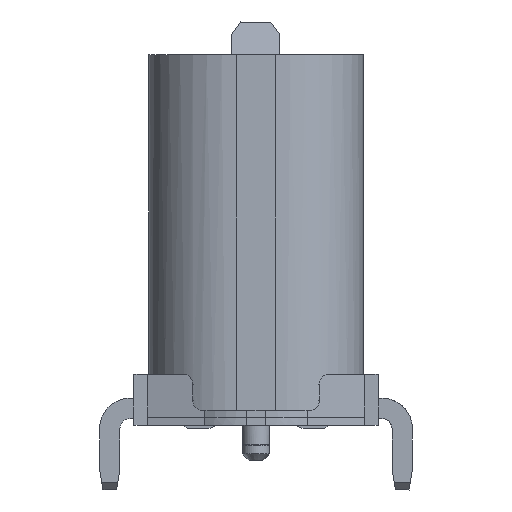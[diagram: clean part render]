
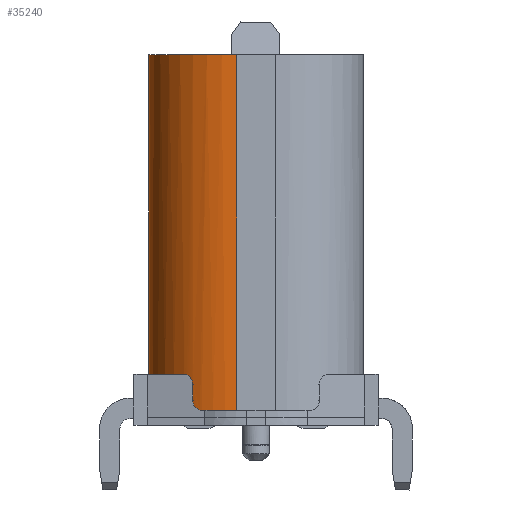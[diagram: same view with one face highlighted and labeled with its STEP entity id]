
A CAD part, left-side view. The second image highlights one B-rep face of the part: STEP entity #35240.
In plain terms, the highlighted cylindrical face has radius 1.3 mm (diameter 2.6 mm), a partial arc.
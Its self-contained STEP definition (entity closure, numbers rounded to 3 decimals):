
#1643 = B_SPLINE_CURVE_WITH_KNOTS ( 'NONE', 3,
 ( #41943, #15188, #38168, #41668, #24095, #15461 ),
 .UNSPECIFIED., .F., .F.,
 ( 4, 2, 4 ),
 ( 0., 0.5, 1. ),
 .UNSPECIFIED. ) ;
#1701 = VERTEX_POINT ( 'NONE', #9080 ) ;
#1882 = CARTESIAN_POINT ( 'NONE',  ( -64.57, -1.771, -42.243 ) ) ;
#2016 = CARTESIAN_POINT ( 'NONE',  ( -65.763, -1.256, -47.473 ) ) ;
#3284 = CARTESIAN_POINT ( 'NONE',  ( -65.696, -1.121, -47.051 ) ) ;
#4338 = EDGE_CURVE ( 'NONE', #37226, #1701, #11267, .T. ) ;
#4590 = CIRCLE ( 'NONE', #7336, 1.3 ) ;
#5899 = VERTEX_POINT ( 'NONE', #2016 ) ;
#6237 = FACE_OUTER_BOUND ( 'NONE', #15548, .T. ) ;
#6967 = VERTEX_POINT ( 'NONE', #21677 ) ;
#7336 = AXIS2_PLACEMENT_3D ( 'NONE', #47164, #25847, #39085 ) ;
#7594 = CARTESIAN_POINT ( 'NONE',  ( -65.658, -1.059, -46.958 ) ) ;
#9080 = CARTESIAN_POINT ( 'NONE',  ( -64.57, -0.471, -42.243 ) ) ;
#10608 = ORIENTED_EDGE ( 'NONE', *, *, #23556, .T. ) ;
#11267 = LINE ( 'NONE', #33147, #24726 ) ;
#11627 = CARTESIAN_POINT ( 'NONE',  ( -65.696, -1.121, -47.093 ) ) ;
#12638 = EDGE_CURVE ( 'NONE', #37226, #41283, #4590, .T. ) ;
#13618 = ORIENTED_EDGE ( 'NONE', *, *, #4338, .F. ) ;
#14459 = CARTESIAN_POINT ( 'NONE',  ( -64.57, -0.471, -46.943 ) ) ;
#14625 = EDGE_CURVE ( 'NONE', #41283, #28390, #28459, .T. ) ;
#15188 = CARTESIAN_POINT ( 'NONE',  ( -65.696, -1.122, -47.363 ) ) ;
#15461 = CARTESIAN_POINT ( 'NONE',  ( -65.763, -1.256, -47.473 ) ) ;
#15548 = EDGE_LOOP ( 'NONE', ( #16796, #33760, #13618, #35273, #25571, #10608, #17710, #17244 ) ) ;
#15866 = DIRECTION ( 'NONE',  ( 0., 0., 1. ) ) ;
#16396 = EDGE_CURVE ( 'NONE', #5899, #42711, #20438, .T. ) ;
#16506 = CARTESIAN_POINT ( 'NONE',  ( -65.689, -1.108, -47.016 ) ) ;
#16796 = ORIENTED_EDGE ( 'NONE', *, *, #39439, .T. ) ;
#17244 = ORIENTED_EDGE ( 'NONE', *, *, #16396, .T. ) ;
#17710 = ORIENTED_EDGE ( 'NONE', *, *, #42921, .T. ) ;
#18111 = CARTESIAN_POINT ( 'NONE',  ( -65.87, -1.771, -58.224 ) ) ;
#18684 = LINE ( 'NONE', #18111, #41855 ) ;
#19476 = CYLINDRICAL_SURFACE ( 'NONE', #29761, 1.3 ) ;
#20438 = CIRCLE ( 'NONE', #52618, 1.3 ) ;
#20586 = DIRECTION ( 'NONE',  ( 1., 0., 0. ) ) ;
#21677 = CARTESIAN_POINT ( 'NONE',  ( -65.87, -1.771, -42.243 ) ) ;
#22375 = CARTESIAN_POINT ( 'NONE',  ( -65.87, -1.771, -47.473 ) ) ;
#23556 = EDGE_CURVE ( 'NONE', #28390, #33841, #56533, .T. ) ;
#24095 = CARTESIAN_POINT ( 'NONE',  ( -65.747, -1.219, -47.473 ) ) ;
#24726 = VECTOR ( 'NONE', #15866, 1000. ) ;
#24861 = DIRECTION ( 'NONE',  ( 0., -1., 0. ) ) ;
#25571 = ORIENTED_EDGE ( 'NONE', *, *, #14625, .T. ) ;
#25847 = DIRECTION ( 'NONE',  ( 0., 0., 1. ) ) ;
#25972 = CARTESIAN_POINT ( 'NONE',  ( -64.57, -1.771, -47.473 ) ) ;
#27094 = CARTESIAN_POINT ( 'NONE',  ( -65.696, -1.121, -58.224 ) ) ;
#28390 = VERTEX_POINT ( 'NONE', #39178 ) ;
#28459 = B_SPLINE_CURVE_WITH_KNOTS ( 'NONE', 3,
 ( #34643, #47022, #7594, #16506, #3284, #11627 ),
 .UNSPECIFIED., .F., .F.,
 ( 4, 2, 4 ),
 ( 0., 0.5, 1. ),
 .UNSPECIFIED. ) ;
#29205 = DIRECTION ( 'NONE',  ( 0., 0., -1. ) ) ;
#29761 = AXIS2_PLACEMENT_3D ( 'NONE', #37024, #29826, #20586 ) ;
#29826 = DIRECTION ( 'NONE',  ( 0., 0., 1. ) ) ;
#32942 = AXIS2_PLACEMENT_3D ( 'NONE', #1882, #29205, #24861 ) ;
#33147 = CARTESIAN_POINT ( 'NONE',  ( -64.57, -0.471, -44.618 ) ) ;
#33760 = ORIENTED_EDGE ( 'NONE', *, *, #43395, .T. ) ;
#33838 = CIRCLE ( 'NONE', #32942, 1.3 ) ;
#33841 = VERTEX_POINT ( 'NONE', #48430 ) ;
#34643 = CARTESIAN_POINT ( 'NONE',  ( -65.613, -0.996, -46.943 ) ) ;
#34897 = DIRECTION ( 'NONE',  ( 1., 0., 0. ) ) ;
#35126 = VECTOR ( 'NONE', #49540, 1000. ) ;
#35240 = ADVANCED_FACE ( 'NONE', ( #6237 ), #19476, .T. ) ;
#35273 = ORIENTED_EDGE ( 'NONE', *, *, #12638, .T. ) ;
#37024 = CARTESIAN_POINT ( 'NONE',  ( -64.57, -1.771, -58.224 ) ) ;
#37226 = VERTEX_POINT ( 'NONE', #14459 ) ;
#38168 = CARTESIAN_POINT ( 'NONE',  ( -65.704, -1.135, -47.401 ) ) ;
#39085 = DIRECTION ( 'NONE',  ( 1., 0., 0. ) ) ;
#39178 = CARTESIAN_POINT ( 'NONE',  ( -65.696, -1.121, -47.093 ) ) ;
#39439 = EDGE_CURVE ( 'NONE', #42711, #6967, #18684, .T. ) ;
#41005 = CARTESIAN_POINT ( 'NONE',  ( -65.613, -0.996, -46.943 ) ) ;
#41283 = VERTEX_POINT ( 'NONE', #41005 ) ;
#41668 = CARTESIAN_POINT ( 'NONE',  ( -65.73, -1.185, -47.457 ) ) ;
#41855 = VECTOR ( 'NONE', #53809, 1000. ) ;
#41943 = CARTESIAN_POINT ( 'NONE',  ( -65.696, -1.121, -47.323 ) ) ;
#42711 = VERTEX_POINT ( 'NONE', #22375 ) ;
#42921 = EDGE_CURVE ( 'NONE', #33841, #5899, #1643, .T. ) ;
#43395 = EDGE_CURVE ( 'NONE', #6967, #1701, #33838, .T. ) ;
#47022 = CARTESIAN_POINT ( 'NONE',  ( -65.637, -1.028, -46.943 ) ) ;
#47164 = CARTESIAN_POINT ( 'NONE',  ( -64.57, -1.771, -46.943 ) ) ;
#48430 = CARTESIAN_POINT ( 'NONE',  ( -65.696, -1.121, -47.323 ) ) ;
#49540 = DIRECTION ( 'NONE',  ( 0., 0., -1. ) ) ;
#52618 = AXIS2_PLACEMENT_3D ( 'NONE', #25972, #56762, #34897 ) ;
#53809 = DIRECTION ( 'NONE',  ( 0., 0., 1. ) ) ;
#56533 = LINE ( 'NONE', #27094, #35126 ) ;
#56762 = DIRECTION ( 'NONE',  ( 0., 0., 1. ) ) ;
